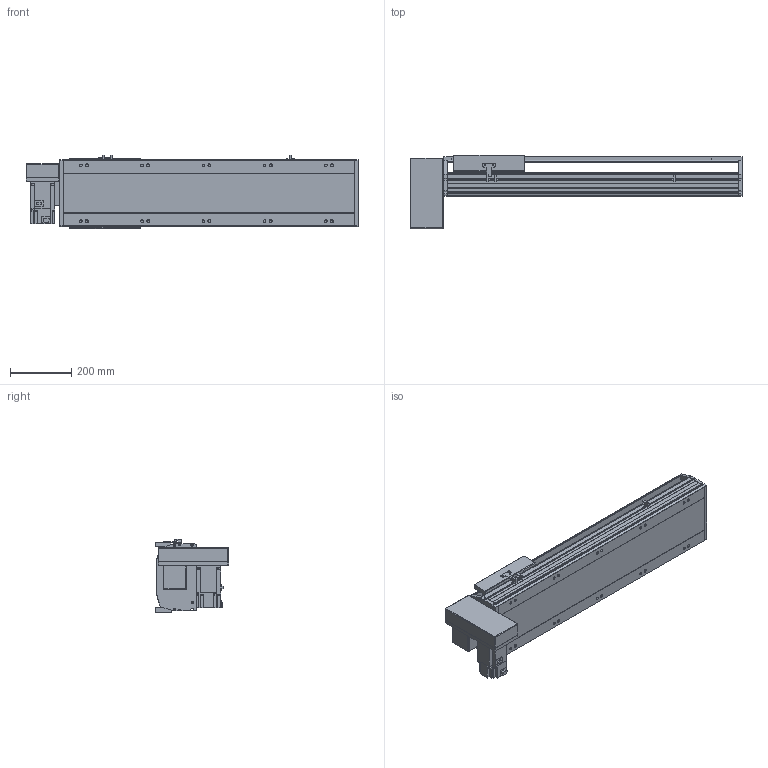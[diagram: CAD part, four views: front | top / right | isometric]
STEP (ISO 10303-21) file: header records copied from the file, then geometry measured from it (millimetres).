
FILE_DESCRIPTION(/* description */ ('STEP AP214'),/* implementation_level */ '2;1');
FILE_NAME(/* name */ 'PBS220-P40-S600-RD-T75-C1-N(0)',/* time_stamp */ '2022-06-13T02:41:12+02:00',/* author */ ('License CC BY-ND 4.0'),/* organization */ ('CADENAS'),/* preprocessor_version */ 'ST-DEVELOPER v18.102',/* originating_system */ 'PARTsolutions',/* authorisation */ ' ');
FILE_SCHEMA (('AUTOMOTIVE_DESIGN {1 0 10303 214 3 1 1}'));
Length unit declared in the file: millimetre
Products named in the file (7): PBS220-P40-S600-RD-T75-C1-N(0); PBS220_sensor; PBS220_plant; PBS220_sliser; T75-p1; PBS220T-RD_motors; PBS220-S600()_body
Assembly tree (8 placements, depth 2):
  PBS220-P40-S600-RD-T75-C1-N(0)
    PBS220_sensor  x3
    PBS220_plant
    PBS220_sliser
    T75-p1
    PBS220T-RD_motors
    PBS220-S600()_body
Bounding box: 1084 x 239 x 238.5 mm (x, y, z)
Volume: 16075578.1 mm3; surface area: 1640241.3 mm2
Topology: 8 solids, 8 shells, 878 faces, 2312 edges, 1504 vertices
Faces by surface type: plane 586, cylinder 258, cone 34
Full cylindrical faces by diameter (mm): 2.013 x4, 4.5 x14, 4.917 x4, 6 x7, 6.647 x8, 8 x10, 8.376 x10, 8.5 x10, 10 x6, 14 x10, 38 x2, 40 x1, 70 x1
Entity records: 24693 total; most frequent: CARTESIAN_POINT 4294, DIRECTION 4293, ORIENTED_EDGE 3998, EDGE_CURVE 1999, AXIS2_PLACEMENT_3D 1477, VERTEX_POINT 1368, LINE 1339, VECTOR 1339
